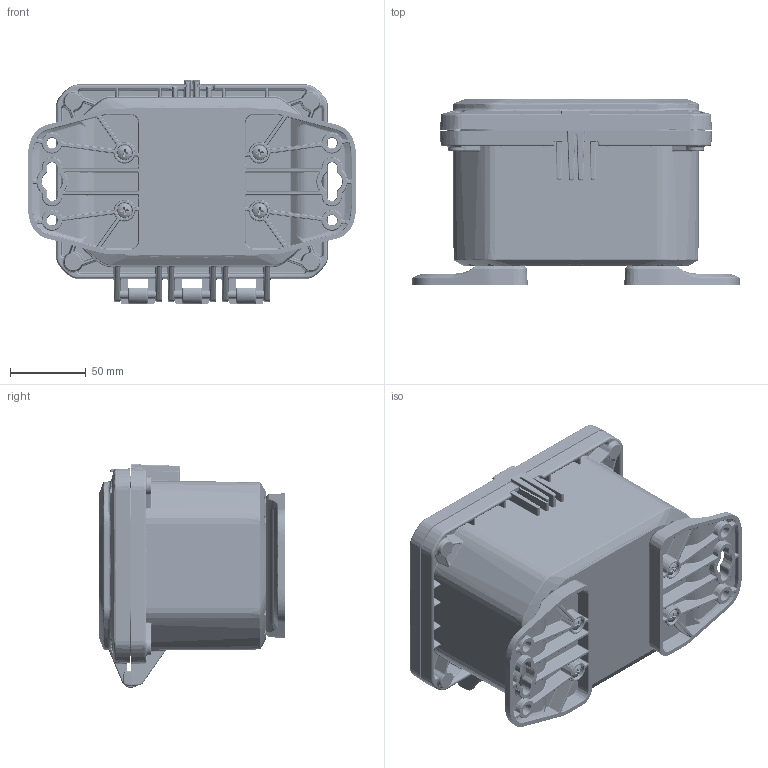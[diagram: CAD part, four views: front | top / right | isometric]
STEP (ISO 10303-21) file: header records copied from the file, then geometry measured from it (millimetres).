
FILE_DESCRIPTION (( 'STEP AP214' ), '1' );
FILE_NAME ('ZH-060404-04.STEP', '2024-10-25T16:20:46', ( '' ), ( '' ), 'SwSTEP 2.0', 'SolidWorks 2024', '' );
FILE_SCHEMA (( 'AUTOMOTIVE_DESIGN' ));
Length unit declared in the file: inch
Products named in the file (10): SCREWS-046_SCREWS-046; LABEL-104; INSERTS-4; Z_-06043B_ZH-06043B-01; Z_-06041CG_ZH-06041CG-01; Z_-06043BI_ZH-06043BI-01; ZH-04F_ZH-04F-01; ZH-0604G; ZH-060404-04; Z_-06041C_ZH-06041C-01
Assembly tree (28 placements, depth 3):
  ZH-060404-04
    Z_-06043BI_ZH-06043BI-01
      Z_-06043B_ZH-06043B-01
      INSERTS-4  x12
      LABEL-104
    Z_-06041CG_ZH-06041CG-01
      Z_-06041C_ZH-06041C-01
      ZH-0604G
    SCREWS-046_SCREWS-046  x8
    ZH-04F_ZH-04F-01  x2
Bounding box: 215.9 x 122.68 x 147.19 mm (x, y, z)
Volume: 538376.2 mm3; surface area: 318931.4 mm2
Topology: 26 solids, 26 shells, 7512 faces, 18467 edges, 10998 vertices
Faces by surface type: bspline 1981, cylinder 1598, cone 1510, plane 1415, torus 802, sphere 206
Entity records: 236823 total; most frequent: CARTESIAN_POINT 137243, ORIENTED_EDGE 22860, DIRECTION 18661, EDGE_CURVE 11430, AXIS2_PLACEMENT_3D 7880, VERTEX_POINT 6648, EDGE_LOOP 5000, FACE_OUTER_BOUND 4881
